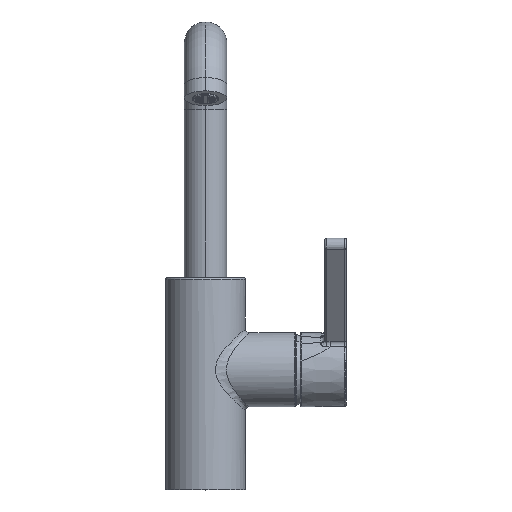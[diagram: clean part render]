
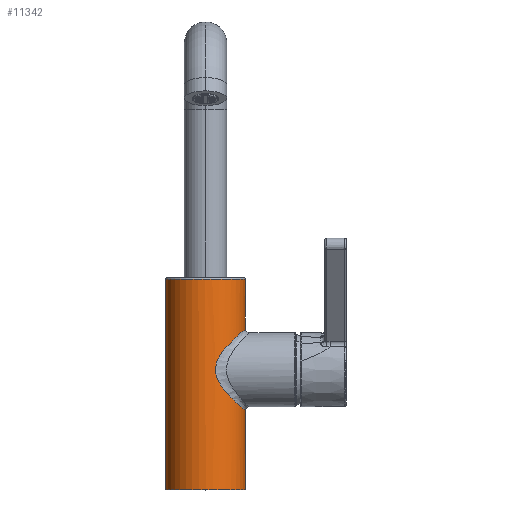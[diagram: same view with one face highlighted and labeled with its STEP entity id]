
A CAD part, top view. The second image highlights one B-rep face of the part: STEP entity #11342.
In plain terms, the highlighted cylindrical face has radius 22.5 mm (diameter 45 mm), a partial arc.
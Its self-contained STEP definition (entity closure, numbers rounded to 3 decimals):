
#1=CARTESIAN_POINT('',(0.,0.,0.));
#2=DIRECTION('',(0.,1.,0.));
#3=DIRECTION('',(-1.,0.,0.));
#4=AXIS2_PLACEMENT_3D('',#1,#2,#3);
#11=DIRECTION('',(0.,-1.,0.));
#12=VECTOR('',#11,28.214);
#13=CARTESIAN_POINT('',(22.5,119.214,0.));
#14=LINE('',#13,#12);
#15=CARTESIAN_POINT('',(22.5,91.,0.));
#16=CARTESIAN_POINT('',(22.5,91.,0.856));
#17=CARTESIAN_POINT('',(22.404,90.92,2.568));
#18=CARTESIAN_POINT('',(21.949,90.537,5.174));
#19=CARTESIAN_POINT('',(21.193,89.896,7.713));
#20=CARTESIAN_POINT('',(20.141,88.992,10.144));
#21=CARTESIAN_POINT('',(18.81,87.823,12.439));
#22=CARTESIAN_POINT('',(17.73,86.852,13.883));
#23=CARTESIAN_POINT('',(17.134,86.298,14.584));
#24=CARTESIAN_POINT('',(17.091,86.258,14.634));
#26=CARTESIAN_POINT('',(17.091,86.258,14.634));
#27=CARTESIAN_POINT('',(16.719,85.915,15.068));
#28=CARTESIAN_POINT('',(15.944,85.186,15.907));
#29=CARTESIAN_POINT('',(14.677,83.955,17.083));
#30=CARTESIAN_POINT('',(13.792,83.05,17.786));
#31=CARTESIAN_POINT('',(13.34,82.577,18.119));
#33=CARTESIAN_POINT('',(13.34,82.577,18.119));
#34=CARTESIAN_POINT('',(12.696,81.923,18.593));
#35=CARTESIAN_POINT('',(11.452,80.534,19.408));
#36=CARTESIAN_POINT('',(9.615,78.27,20.371));
#37=CARTESIAN_POINT('',(8.587,76.743,20.803));
#38=CARTESIAN_POINT('',(8.117,75.967,20.985));
#40=CARTESIAN_POINT('',(8.57,59.313,20.804));
#41=CARTESIAN_POINT('',(8.697,59.117,20.752));
#42=CARTESIAN_POINT('',(9.059,58.574,20.599));
#43=CARTESIAN_POINT('',(9.446,58.034,20.423));
#44=CARTESIAN_POINT('',(9.703,57.688,20.3));
#46=CARTESIAN_POINT('',(9.703,57.688,20.3));
#47=CARTESIAN_POINT('',(9.916,57.402,20.199));
#48=CARTESIAN_POINT('',(10.623,56.481,19.847));
#49=CARTESIAN_POINT('',(11.888,54.976,19.137));
#50=CARTESIAN_POINT('',(13.007,53.77,18.373));
#51=CARTESIAN_POINT('',(13.552,53.202,17.961));
#53=CARTESIAN_POINT('',(13.552,53.202,17.961));
#54=CARTESIAN_POINT('',(13.603,53.149,17.922));
#55=CARTESIAN_POINT('',(14.245,52.469,17.432));
#56=CARTESIAN_POINT('',(15.48,51.255,16.384));
#57=CARTESIAN_POINT('',(16.608,50.189,15.2));
#58=CARTESIAN_POINT('',(17.126,49.71,14.593));
#60=CARTESIAN_POINT('',(17.126,49.71,14.593));
#61=CARTESIAN_POINT('',(17.164,49.675,14.548));
#62=CARTESIAN_POINT('',(17.754,49.122,13.851));
#63=CARTESIAN_POINT('',(18.83,48.16,12.409));
#64=CARTESIAN_POINT('',(20.157,46.994,10.112));
#65=CARTESIAN_POINT('',(21.204,46.095,7.683));
#66=CARTESIAN_POINT('',(21.954,45.459,5.15));
#67=CARTESIAN_POINT('',(22.405,45.079,2.556));
#68=CARTESIAN_POINT('',(22.5,45.,0.851));
#69=CARTESIAN_POINT('',(22.5,45.,0.));
#71=DIRECTION('',(0.,-1.,0.));
#72=VECTOR('',#71,45.);
#73=CARTESIAN_POINT('',(22.5,45.,0.));
#74=LINE('',#73,#72);
#75=DIRECTION('',(0.,-1.,0.));
#76=VECTOR('',#75,119.214);
#77=CARTESIAN_POINT('',(-22.5,119.214,0.));
#78=LINE('',#77,#76);
#222=CARTESIAN_POINT('',(0.,119.214,0.));
#223=DIRECTION('',(0.,-1.,0.));
#224=DIRECTION('',(1.,0.,0.));
#225=AXIS2_PLACEMENT_3D('',#222,#223,#224);
#227=CARTESIAN_POINT('',(0.,119.214,0.));
#228=DIRECTION('',(0.,-1.,0.));
#229=DIRECTION('',(1.,0.,0.011));
#230=AXIS2_PLACEMENT_3D('',#227,#228,#229);
#8474=CARTESIAN_POINT('',(8.57,59.313,20.804));
#8475=CARTESIAN_POINT('',(8.213,59.863,20.951));
#8476=CARTESIAN_POINT('',(7.558,60.956,21.199));
#8477=CARTESIAN_POINT('',(6.775,62.568,21.46));
#8478=CARTESIAN_POINT('',(6.203,64.106,21.63));
#8479=CARTESIAN_POINT('',(5.825,65.588,21.734));
#8480=CARTESIAN_POINT('',(5.63,66.983,21.784));
#8481=CARTESIAN_POINT('',(5.591,68.338,21.794));
#8482=CARTESIAN_POINT('',(5.704,69.701,21.765));
#8483=CARTESIAN_POINT('',(5.982,71.122,21.691));
#8484=CARTESIAN_POINT('',(6.447,72.614,21.559));
#8485=CARTESIAN_POINT('',(7.128,74.217,21.347));
#8486=CARTESIAN_POINT('',(7.761,75.37,21.122));
#8487=CARTESIAN_POINT('',(8.117,75.967,20.985));
#9485=CARTESIAN_POINT('',(-22.5,0.,0.));
#9486=CARTESIAN_POINT('',(22.5,0.,0.));
#9487=VERTEX_POINT('',#9485);
#9488=VERTEX_POINT('',#9486);
#9489=CARTESIAN_POINT('',(-22.5,119.214,0.));
#9490=VERTEX_POINT('',#9489);
#9491=CARTESIAN_POINT('',(22.499,119.214,0.255));
#9492=VERTEX_POINT('',#9491);
#9493=CARTESIAN_POINT('',(22.5,119.214,0.));
#9494=VERTEX_POINT('',#9493);
#9495=CARTESIAN_POINT('',(22.5,91.,
0.));
#9496=VERTEX_POINT('',#9495);
#9497=VERTEX_POINT('',#24);
#9498=VERTEX_POINT('',#31);
#9499=VERTEX_POINT('',#38);
#9500=VERTEX_POINT('',#8474);
#9501=VERTEX_POINT('',#44);
#9502=VERTEX_POINT('',#51);
#9503=VERTEX_POINT('',#58);
#9504=VERTEX_POINT('',#69);
#11308=CARTESIAN_POINT('',(0.,-6.02,0.));
#11309=DIRECTION('',(0.,1.,0.));
#11310=DIRECTION('',(1.,0.,0.));
#11311=AXIS2_PLACEMENT_3D('',#11308,#11309,#11310);
#11312=CYLINDRICAL_SURFACE('',#11311,22.5);
#11314=ORIENTED_EDGE('',*,*,#11313,.F.);
#11316=ORIENTED_EDGE('',*,*,#11315,.F.);
#11318=ORIENTED_EDGE('',*,*,#11317,.F.);
#11320=ORIENTED_EDGE('',*,*,#11319,.T.);
#11322=ORIENTED_EDGE('',*,*,#11321,.T.);
#11324=ORIENTED_EDGE('',*,*,#11323,.T.);
#11326=ORIENTED_EDGE('',*,*,#11325,.T.);
#11328=ORIENTED_EDGE('',*,*,#11327,.F.);
#11330=ORIENTED_EDGE('',*,*,#11329,.T.);
#11332=ORIENTED_EDGE('',*,*,#11331,.T.);
#11334=ORIENTED_EDGE('',*,*,#11333,.T.);
#11336=ORIENTED_EDGE('',*,*,#11335,.T.);
#11338=ORIENTED_EDGE('',*,*,#11337,.T.);
#11339=ORIENTED_EDGE('',*,*,#11301,.F.);
#11340=EDGE_LOOP('',(#11314,#11316,#11318,#11320,#11322,#11324,#11326,#11328,
#11330,#11332,#11334,#11336,#11338,#11339));
#11341=FACE_OUTER_BOUND('',#11340,.F.);
#11342=ADVANCED_FACE('',(#11341),#11312,.T.);
#5=CIRCLE('',#4,22.5);
#25=B_SPLINE_CURVE_WITH_KNOTS('',3,(#15,#16,#17,#18,#19,#20,#21,#22,#23,#24),
.UNSPECIFIED.,.F.,.F.,(4,1,1,1,1,1,1,4),(0.,0.165,
0.329,0.494,0.658,0.823,
0.987,1.),.UNSPECIFIED.);
#32=B_SPLINE_CURVE_WITH_KNOTS('',3,(#26,#27,#28,#29,#30,#31),.UNSPECIFIED.,.F.,
.F.,(4,1,1,4),(0.,0.333,0.667,1.),.UNSPECIFIED.);
#39=B_SPLINE_CURVE_WITH_KNOTS('',3,(#33,#34,#35,#36,#37,#38),.UNSPECIFIED.,.F.,
.F.,(4,1,1,4),(0.,0.333,0.667,1.),.UNSPECIFIED.);
#45=B_SPLINE_CURVE_WITH_KNOTS('',3,(#40,#41,#42,#43,#44),.UNSPECIFIED.,.F.,.F.,(
4,1,4),(0.,0.366,1.),.UNSPECIFIED.);
#52=B_SPLINE_CURVE_WITH_KNOTS('',3,(#46,#47,#48,#49,#50,#51),.UNSPECIFIED.,.F.,
.F.,(4,1,1,4),(0.,0.191,0.614,1.),.UNSPECIFIED.);
#59=B_SPLINE_CURVE_WITH_KNOTS('',3,(#53,#54,#55,#56,#57,#58),.UNSPECIFIED.,.F.,
.F.,(4,1,1,4),(0.,0.042,0.538,1.),.UNSPECIFIED.);
#70=B_SPLINE_CURVE_WITH_KNOTS('',3,(#60,#61,#62,#63,#64,#65,#66,#67,#68,#69),
.UNSPECIFIED.,.F.,.F.,(4,1,1,1,1,1,1,4),(0.,0.011,
0.176,0.341,0.506,0.67,
0.835,1.),.UNSPECIFIED.);
#226=CIRCLE('',#225,22.5);
#231=CIRCLE('',#230,22.5);
#8488=B_SPLINE_CURVE_WITH_KNOTS('',3,(#8474,#8475,#8476,#8477,#8478,#8479,#8480,
#8481,#8482,#8483,#8484,#8485,#8486,#8487),.UNSPECIFIED.,.F.,.F.,(4,1,1,1,1,1,1,
1,1,1,1,4),(0.,0.091,0.182,0.273,
0.364,0.455,0.545,0.636,
0.727,0.818,0.909,1.),.UNSPECIFIED.);
#11301=EDGE_CURVE('',#9487,#9488,#5,.T.);
#11313=EDGE_CURVE('',#9490,#9487,#78,.T.);
#11315=EDGE_CURVE('',#9492,#9490,#231,.T.);
#11317=EDGE_CURVE('',#9494,#9492,#226,.T.);
#11319=EDGE_CURVE('',#9494,#9496,#14,.T.);
#11321=EDGE_CURVE('',#9496,#9497,#25,.T.);
#11323=EDGE_CURVE('',#9497,#9498,#32,.T.);
#11325=EDGE_CURVE('',#9498,#9499,#39,.T.);
#11327=EDGE_CURVE('',#9500,#9499,#8488,.T.);
#11329=EDGE_CURVE('',#9500,#9501,#45,.T.);
#11331=EDGE_CURVE('',#9501,#9502,#52,.T.);
#11333=EDGE_CURVE('',#9502,#9503,#59,.T.);
#11335=EDGE_CURVE('',#9503,#9504,#70,.T.);
#11337=EDGE_CURVE('',#9504,#9488,#74,.T.);
